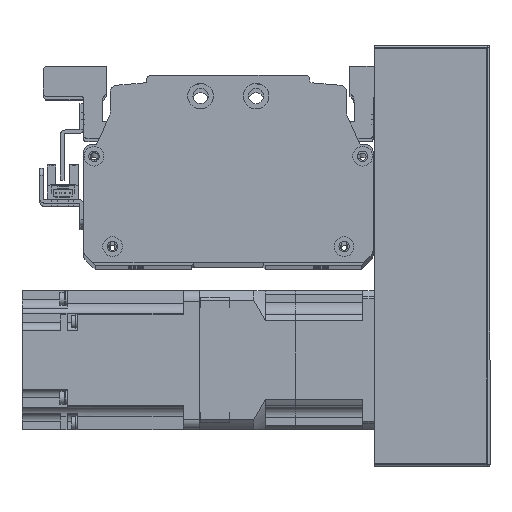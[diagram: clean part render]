
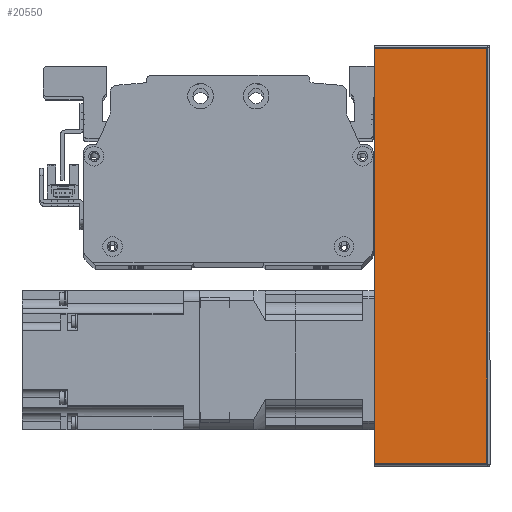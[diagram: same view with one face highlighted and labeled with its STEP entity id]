
A CAD part, top view. The second image highlights one B-rep face of the part: STEP entity #20550.
In plain terms, the highlighted planar face has unit normal (0, 0, 1) as drawn and (0, 1, 0) by its records, which use the part's own axes.
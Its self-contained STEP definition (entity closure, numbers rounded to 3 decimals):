
#568=PLANE('',#22557);
#1775=LINE('',#33459,#3399);
#1789=LINE('',#33504,#3413);
#1793=LINE('',#33526,#3417);
#1812=LINE('',#33589,#3436);
#3399=VECTOR('',#27182,10.);
#3413=VECTOR('',#27230,10.);
#3417=VECTOR('',#27264,10.);
#3436=VECTOR('',#27347,10.);
#5808=FACE_OUTER_BOUND('',#7264,.T.);
#7264=EDGE_LOOP('',(#17150,#17151,#17152,#17153));
#10112=VERTEX_POINT('',#33456);
#10113=VERTEX_POINT('',#33458);
#10126=VERTEX_POINT('',#33499);
#10127=VERTEX_POINT('',#33502);
#12553=EDGE_CURVE('',#10113,#10112,#1775,.T.);
#12577=EDGE_CURVE('',#10126,#10127,#1789,.T.);
#12589=EDGE_CURVE('',#10112,#10126,#1793,.T.);
#12620=EDGE_CURVE('',#10127,#10113,#1812,.T.);
#17150=ORIENTED_EDGE('',*,*,#12577,.T.);
#17151=ORIENTED_EDGE('',*,*,#12620,.T.);
#17152=ORIENTED_EDGE('',*,*,#12553,.T.);
#17153=ORIENTED_EDGE('',*,*,#12589,.T.);
#20550=ADVANCED_FACE('',(#5808),#568,.F.);
#22557=AXIS2_PLACEMENT_3D('',#33588,#27345,#27346);
#27182=DIRECTION('',(-1.,0.,0.));
#27230=DIRECTION('',(1.,0.,0.));
#27264=DIRECTION('',(0.,0.,1.));
#27345=DIRECTION('center_axis',(0.,-1.,0.));
#27346=DIRECTION('ref_axis',(-1.,0.,0.));
#27347=DIRECTION('',(0.,0.,-1.));
#33456=CARTESIAN_POINT('',(-90.,38.,-25.));
#33458=CARTESIAN_POINT('',(90.,38.,-25.));
#33459=CARTESIAN_POINT('',(-91.,38.,-25.));
#33499=CARTESIAN_POINT('',(-90.,38.,24.));
#33502=CARTESIAN_POINT('',(90.,38.,24.));
#33504=CARTESIAN_POINT('',(45.5,38.,24.));
#33526=CARTESIAN_POINT('',(-90.,38.,0.));
#33588=CARTESIAN_POINT('Origin',(91.,38.,0.));
#33589=CARTESIAN_POINT('',(90.,38.,0.));
